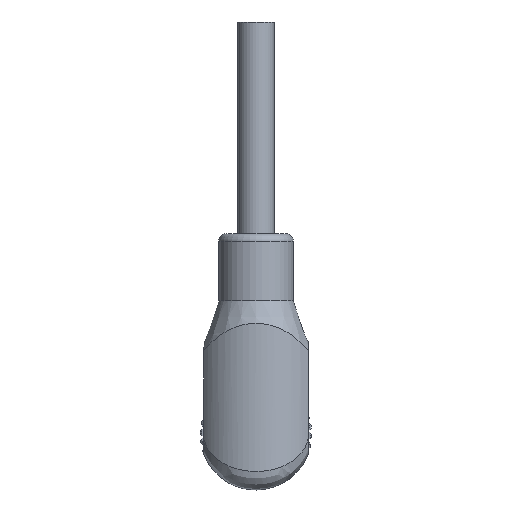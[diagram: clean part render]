
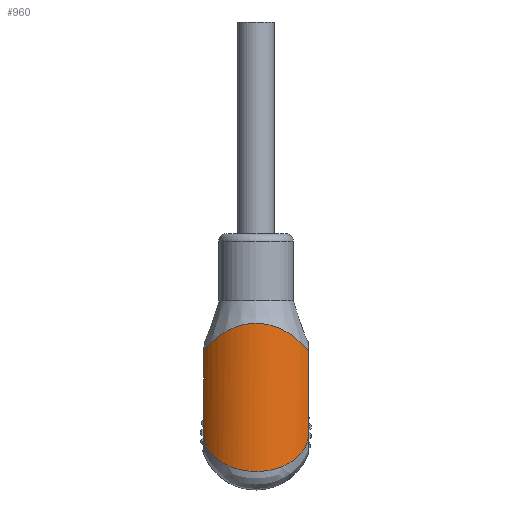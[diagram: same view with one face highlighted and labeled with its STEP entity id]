
A CAD part, front view. The second image highlights one B-rep face of the part: STEP entity #960.
In plain terms, the highlighted cylindrical face has radius 8.606 mm (diameter 17.211 mm), a partial arc.
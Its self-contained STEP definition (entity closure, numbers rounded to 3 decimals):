
#464=B_SPLINE_CURVE_WITH_KNOTS('',3,(#14830,#14831,#14832,#14833,#14834,
#14835,#14836,#14837,#14838,#14839),.UNSPECIFIED.,.F.,.F.,(4,2,2,2,4),(0.,
0.25,0.5,0.75,1.),.UNSPECIFIED.);
#466=B_SPLINE_CURVE_WITH_KNOTS('',3,(#14855,#14856,#14857,#14858,#14859,
#14860,#14861,#14862,#14863,#14864,#14865,#14866,#14867,#14868,#14869,#14870,
#14871,#14872,#14873,#14874,#14875,#14876,#14877,#14878,#14879,#14880),
 .UNSPECIFIED.,.F.,.F.,(4,2,2,2,2,2,2,2,2,2,2,2,4),(0.,0.063,
0.094,0.109,0.125,0.25,0.5,0.75,0.813,0.844,0.859,
0.875,1.),.UNSPECIFIED.);
#750=CYLINDRICAL_SURFACE('',#10197,8.606);
#960=ADVANCED_FACE('',(#1733),#750,.T.);
#1733=FACE_OUTER_BOUND('',#2246,.T.);
#2246=EDGE_LOOP('',(#4466,#4467,#4468,#4469));
#2890=LINE('',#14093,#3583);
#2941=LINE('',#14800,#3634);
#3583=VECTOR('',#11267,1.);
#3634=VECTOR('',#11332,1.);
#4466=ORIENTED_EDGE('',*,*,#8270,.F.);
#4467=ORIENTED_EDGE('',*,*,#8372,.T.);
#4468=ORIENTED_EDGE('',*,*,#8359,.T.);
#4469=ORIENTED_EDGE('',*,*,#8376,.T.);
#7276=VERTEX_POINT('',#14092);
#7277=VERTEX_POINT('',#14094);
#7357=VERTEX_POINT('',#14799);
#7358=VERTEX_POINT('',#14801);
#8270=EDGE_CURVE('',#7276,#7277,#2890,.T.);
#8359=EDGE_CURVE('',#7358,#7357,#2941,.T.);
#8372=EDGE_CURVE('',#7276,#7358,#464,.T.);
#8376=EDGE_CURVE('',#7357,#7277,#466,.T.);
#10197=AXIS2_PLACEMENT_3D('',#14942,#11369,#11370);
#11267=DIRECTION('',(0.,0.,-1.));
#11332=DIRECTION('',(0.,0.,-1.));
#11369=DIRECTION('',(0.,0.,-1.));
#11370=DIRECTION('',(1.,0.,0.));
#14092=CARTESIAN_POINT('',(7.,-4.453,11.248));
#14093=CARTESIAN_POINT('',(7.,-4.453,18.));
#14094=CARTESIAN_POINT('',(7.,-4.453,-0.578));
#14799=CARTESIAN_POINT('',(-7.,-4.453,-0.578));
#14800=CARTESIAN_POINT('',(-7.,-4.453,18.));
#14801=CARTESIAN_POINT('',(-7.,-4.453,11.248));
#14830=CARTESIAN_POINT('',(7.,-4.453,11.248));
#14831=CARTESIAN_POINT('',(6.292,-5.442,12.174));
#14832=CARTESIAN_POINT('',(5.375,-6.302,13.044));
#14833=CARTESIAN_POINT('',(3.01,-7.622,14.449));
#14834=CARTESIAN_POINT('',(1.532,-8.051,14.945));
#14835=CARTESIAN_POINT('',(-1.511,-8.054,14.949));
#14836=CARTESIAN_POINT('',(-3.,-7.625,14.452));
#14837=CARTESIAN_POINT('',(-5.355,-6.317,13.06));
#14838=CARTESIAN_POINT('',(-6.291,-5.444,12.175));
#14839=CARTESIAN_POINT('',(-7.,-4.453,11.248));
#14855=CARTESIAN_POINT('',(-7.,-4.453,-0.578));
#14856=CARTESIAN_POINT('',(-6.947,-4.526,-0.9));
#14857=CARTESIAN_POINT('',(-6.851,-4.66,-1.223));
#14858=CARTESIAN_POINT('',(-6.628,-4.937,-1.711));
#14859=CARTESIAN_POINT('',(-6.54,-5.043,-1.874));
#14860=CARTESIAN_POINT('',(-6.385,-5.217,-2.119));
#14861=CARTESIAN_POINT('',(-6.33,-5.278,-2.201));
#14862=CARTESIAN_POINT('',(-6.21,-5.405,-2.365));
#14863=CARTESIAN_POINT('',(-6.13,-5.487,-2.467));
#14864=CARTESIAN_POINT('',(-5.665,-5.951,-3.03));
#14865=CARTESIAN_POINT('',(-5.13,-6.398,-3.48));
#14866=CARTESIAN_POINT('',(-3.181,-7.587,-4.619));
#14867=CARTESIAN_POINT('',(-1.619,-8.052,-4.999));
#14868=CARTESIAN_POINT('',(1.612,-8.053,-5.001));
#14869=CARTESIAN_POINT('',(3.151,-7.603,-4.634));
#14870=CARTESIAN_POINT('',(4.805,-6.597,-3.67));
#14871=CARTESIAN_POINT('',(5.102,-6.385,-3.463));
#14872=CARTESIAN_POINT('',(5.501,-6.067,-3.13));
#14873=CARTESIAN_POINT('',(5.626,-5.961,-3.016));
#14874=CARTESIAN_POINT('',(5.803,-5.802,-2.839));
#14875=CARTESIAN_POINT('',(5.86,-5.749,-2.779));
#14876=CARTESIAN_POINT('',(5.971,-5.645,-2.657));
#14877=CARTESIAN_POINT('',(6.008,-5.609,-2.615));
#14878=CARTESIAN_POINT('',(6.622,-4.996,-1.873));
#14879=CARTESIAN_POINT('',(6.894,-4.6,-1.222));
#14880=CARTESIAN_POINT('',(7.,-4.453,-0.578));
#14942=CARTESIAN_POINT('',(0.,0.553,18.));
